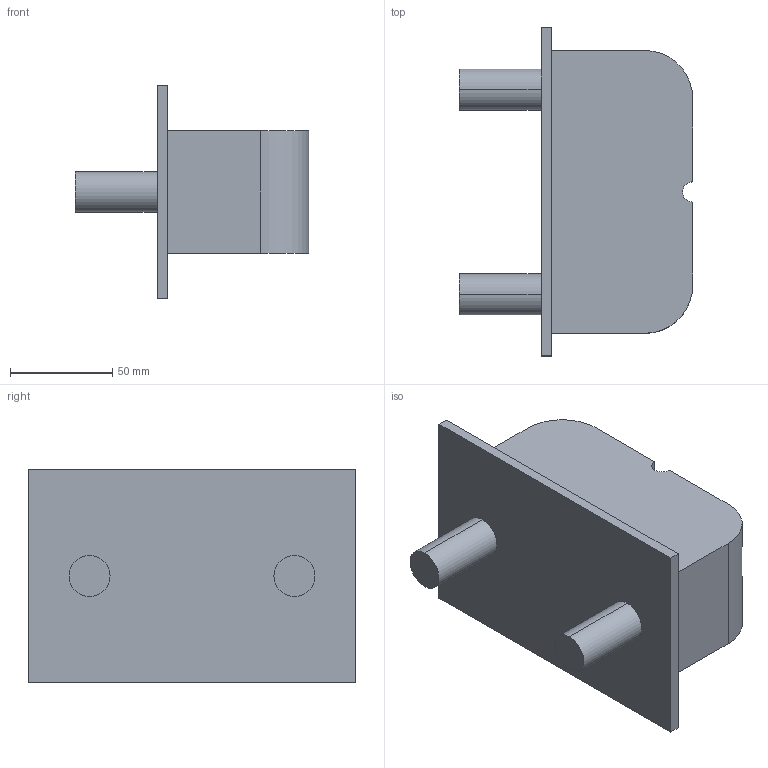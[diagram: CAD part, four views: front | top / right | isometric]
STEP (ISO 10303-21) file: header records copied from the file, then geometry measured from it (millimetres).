
FILE_DESCRIPTION(('STEP AP214'),'1');
FILE_NAME('C:/Users/mashimo/Documents/次世代エンジン/ボア６ｃｍ/TurboCAD/3D/tmp0.STEP','2025-07-11T09:09:24',(' '),(' '),'Spatial InterOp 3D',' ',' ');
FILE_SCHEMA(('automotive_design'));
Length unit declared in the file: millimetre
Products named in the file (1): 1
Bounding box: 114 x 160 x 104 mm (x, y, z)
Volume: 663074.9 mm3; surface area: 66850.1 mm2
Topology: 1 solids, 1 shells, 22 faces, 51 edges, 34 vertices
Faces by surface type: plane 14, cylinder 8
Entity records: 831 total; most frequent: DIRECTION 113, CARTESIAN_POINT 108, ORIENTED_EDGE 102, EDGE_CURVE 51, AXIS2_PLACEMENT_3D 39, LINE 35, VECTOR 35, VERTEX_POINT 34
